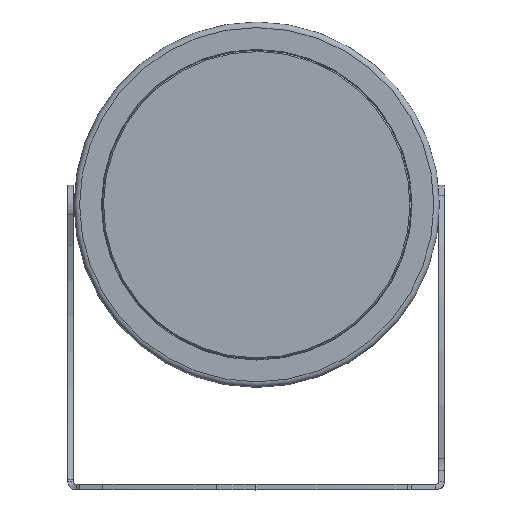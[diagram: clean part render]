
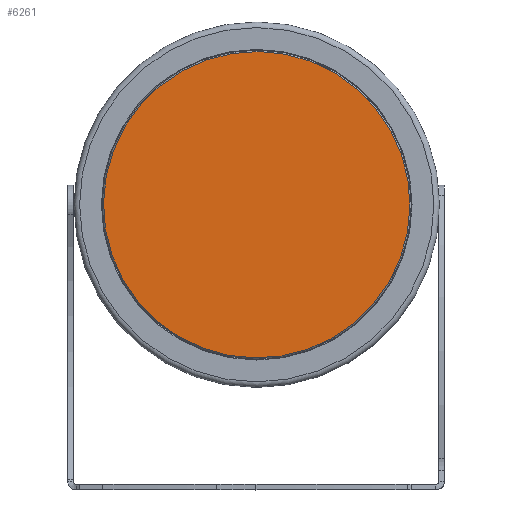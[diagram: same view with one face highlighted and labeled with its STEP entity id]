
A CAD part, top view. The second image highlights one B-rep face of the part: STEP entity #6261.
In plain terms, the highlighted planar face has unit normal (0, 0, 1).
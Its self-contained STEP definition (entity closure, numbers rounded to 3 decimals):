
#2062=PLANE('',#6723);
#2471=VERTEX_POINT('',#10244);
#2756=CIRCLE('',#6720,54.5);
#3363=EDGE_CURVE('',#2471,#2471,#2756,.T.);
#4598=ORIENTED_EDGE('',*,*,#3363,.F.);
#5365=EDGE_LOOP('',(#4598));
#5873=FACE_BOUND('',#5365,.T.);
#6261=ADVANCED_FACE('',(#5873),#2062,.T.);
#6720=AXIS2_PLACEMENT_3D('',#10243,#7845,#7846);
#6723=AXIS2_PLACEMENT_3D('',#10248,#7851,$);
#7845=DIRECTION('',(0.,0.,-1.));
#7846=DIRECTION('',(-54.5,0.,0.));
#7851=DIRECTION('',(0.,0.,1.));
#10243=CARTESIAN_POINT('',(0.,0.,12.));
#10244=CARTESIAN_POINT('',(54.5,0.,12.));
#10248=CARTESIAN_POINT('',(0.,0.,12.));
